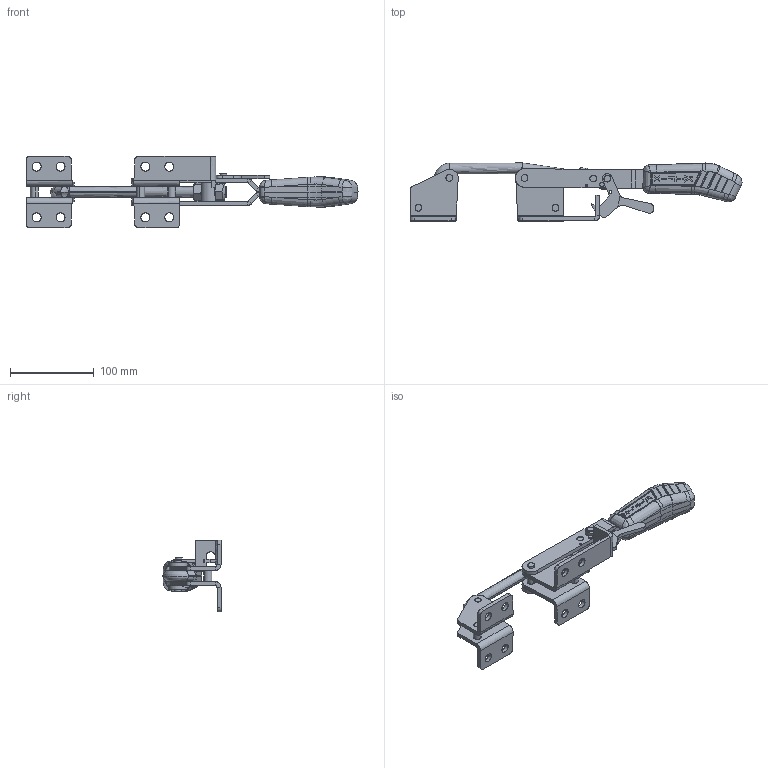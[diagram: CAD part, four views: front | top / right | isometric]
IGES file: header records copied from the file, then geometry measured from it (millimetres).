
Start section: SolidWorks IGES file using analytic representation for surfaces
Global section: file name: C:\Projetos\Grampos\KF-553\KF-553 DTR\KF-553 DTR.IGS; native system: SolidWorks 2013; preprocessor: SolidWorks 2013; author: Ricardo; date: 140821.154343; units: millimetre
Bounding box: 396.15 x 69.22 x 85.5 mm (x, y, z)
Surface area: 116062.6 mm2 (no closed solid volume)
Topology: 0 solids, 0 shells, 731 faces, 8698 edges, 8676 vertices
Faces by surface type: bspline 414, revolution 317
